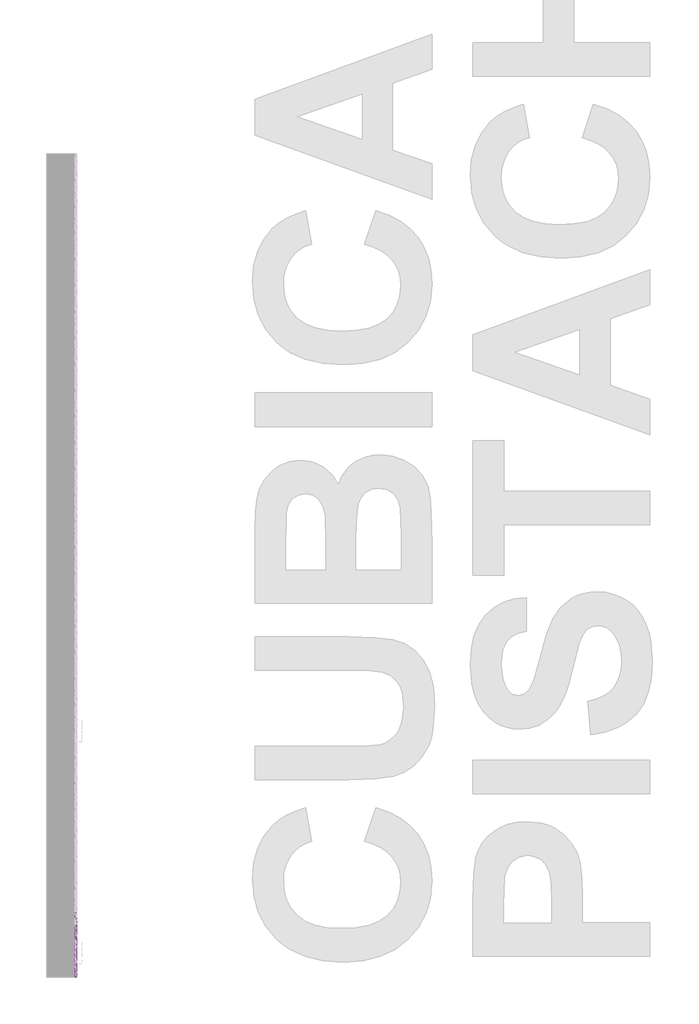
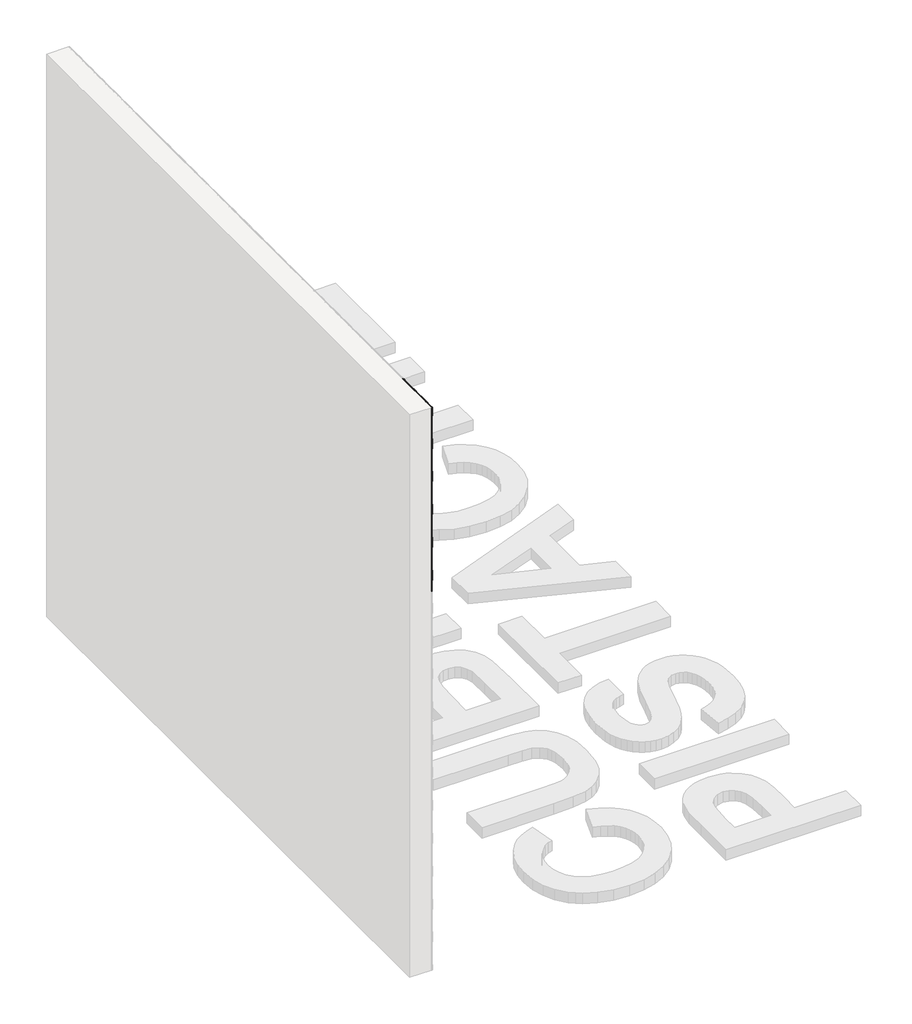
# One storey, part 75 of 121: 143 proxies.
"""IFC4 building model written with IfcOpenShell, lengths in millimetres."""

from ifc_helpers import new_model, si_unit, origin, place, context, project, spatial, transform, mapped, element, save
from components import generic_models_b2b2c5c1, generic_models_9bf73f6f, generic_models_5d175859, generic_models_45888c4d, generic_models_95f85f1d, generic_models_65d4feed, generic_models_3c364290, generic_models_eac52c18, generic_models_b652511d

model = new_model("IFC4")

# Units and contexts
model_context = context("Model", 3, world=origin())
ifc_project = project(units=[si_unit("LENGTHUNIT", "METRE", prefix="MILLI")], contexts=[model_context])

# Site, building, storey
site = spatial("IfcSite", under=ifc_project)
building = spatial("IfcBuilding", under=site)
storey = spatial("IfcBuildingStorey", under=building, Name="PORTOBELLO - SHOWROOM", Elevation=0.0)

# Proxies
placement = place(None, origin())
generic_models_shape = generic_models_b2b2c5c1(model_context)
element("IfcBuildingElementProxy", 1, Name="PBSHOP - CUBICA PISTACHE 4,8X8,3 : CUBICA PISTACHE - POSIÇÃO 01", ObjectType="PBSHOP - CUBICA PISTACHE 4,8X8,3 : CUBICA PISTACHE - POSIÇÃO 01", at=placement, inside=storey, context=model_context, shape_type="MappedRepresentation", body=[
    mapped(generic_models_shape, transform((150369.5341846, 13069.0655533, 39.4221668), x_axis=(0.0, 1.0, 0.0), y_axis=(0.0, 0.0, 1.0), z_axis=(1.0, 0.0, 0.0))),
])
element("IfcBuildingElementProxy", 2, Name="PBSHOP - CUBICA PISTACHE 4,8X8,3 : CUBICA PISTACHE - POSIÇÃO 01", ObjectType="PBSHOP - CUBICA PISTACHE 4,8X8,3 : CUBICA PISTACHE - POSIÇÃO 01", at=placement, inside=storey, context=model_context, shape_type="MappedRepresentation", body=[
    mapped(generic_models_shape, transform((150369.5341846, 13159.9048225, 39.4221668), x_axis=(0.0, 1.0, 0.0), y_axis=(0.0, 0.0, 1.0), z_axis=(1.0, 0.0, 0.0))),
])
element("IfcBuildingElementProxy", 3, Name="PBSHOP - CUBICA PISTACHE 4,8X8,3 : CUBICA PISTACHE - POSIÇÃO 01", ObjectType="PBSHOP - CUBICA PISTACHE 4,8X8,3 : CUBICA PISTACHE - POSIÇÃO 01", at=placement, inside=storey, context=model_context, shape_type="MappedRepresentation", body=[
    mapped(generic_models_shape, transform((150369.5341846, 13250.7440918, 39.4221668), x_axis=(0.0, 1.0, 0.0), y_axis=(0.0, 0.0, 1.0), z_axis=(1.0, 0.0, 0.0))),
])
element("IfcBuildingElementProxy", 4, Name="PBSHOP - CUBICA PISTACHE 4,8X8,3 : CUBICA PISTACHE - POSIÇÃO 01", ObjectType="PBSHOP - CUBICA PISTACHE 4,8X8,3 : CUBICA PISTACHE - POSIÇÃO 01", at=placement, inside=storey, context=model_context, shape_type="MappedRepresentation", body=[
    mapped(generic_models_shape, transform((150369.5341846, 13341.583361, 39.4221668), x_axis=(0.0, 1.0, 0.0), y_axis=(0.0, 0.0, 1.0), z_axis=(1.0, 0.0, 0.0))),
])
element("IfcBuildingElementProxy", 5, Name="PBSHOP - CUBICA PISTACHE 4,8X8,3 : CUBICA PISTACHE - POSIÇÃO 01", ObjectType="PBSHOP - CUBICA PISTACHE 4,8X8,3 : CUBICA PISTACHE - POSIÇÃO 01", at=placement, inside=storey, context=model_context, shape_type="MappedRepresentation", body=[
    mapped(generic_models_shape, transform((150369.5341846, 13432.4226303, 39.4221668), x_axis=(0.0, 1.0, 0.0), y_axis=(0.0, 0.0, 1.0), z_axis=(1.0, 0.0, 0.0))),
])
element("IfcBuildingElementProxy", 6, Name="PBSHOP - CUBICA PISTACHE 4,8X8,3 : CUBICA PISTACHE - POSIÇÃO 01", ObjectType="PBSHOP - CUBICA PISTACHE 4,8X8,3 : CUBICA PISTACHE - POSIÇÃO 01", at=placement, inside=storey, context=model_context, shape_type="MappedRepresentation", body=[
    mapped(generic_models_shape, transform((150369.5341846, 13523.2618995, 39.4221668), x_axis=(0.0, 1.0, 0.0), y_axis=(0.0, 0.0, 1.0), z_axis=(1.0, 0.0, 0.0))),
])
element("IfcBuildingElementProxy", 7, Name="PBSHOP - CUBICA PISTACHE 4,8X8,3 : CUBICA PISTACHE - POSIÇÃO 01", ObjectType="PBSHOP - CUBICA PISTACHE 4,8X8,3 : CUBICA PISTACHE - POSIÇÃO 01", at=placement, inside=storey, context=model_context, shape_type="MappedRepresentation", body=[
    mapped(generic_models_shape, transform((150369.5341846, 13614.1011688, 39.4221668), x_axis=(0.0, 1.0, 0.0), y_axis=(0.0, 0.0, 1.0), z_axis=(1.0, 0.0, 0.0))),
])
element("IfcBuildingElementProxy", 8, Name="PBSHOP - CUBICA PISTACHE 4,8X8,3 : CUBICA PISTACHE - POSIÇÃO 01", ObjectType="PBSHOP - CUBICA PISTACHE 4,8X8,3 : CUBICA PISTACHE - POSIÇÃO 01", at=placement, inside=storey, context=model_context, shape_type="MappedRepresentation", body=[
    mapped(generic_models_shape, transform((150369.5341846, 13704.940438, 39.4221668), x_axis=(0.0, 1.0, 0.0), y_axis=(0.0, 0.0, 1.0), z_axis=(1.0, 0.0, 0.0))),
])
element("IfcBuildingElementProxy", 9, Name="PBSHOP - CUBICA PISTACHE 4,8X8,3 : CUBICA PISTACHE - POSIÇÃO 01", ObjectType="PBSHOP - CUBICA PISTACHE 4,8X8,3 : CUBICA PISTACHE - POSIÇÃO 01", at=placement, inside=storey, context=model_context, shape_type="MappedRepresentation", body=[
    mapped(generic_models_shape, transform((150369.5341846, 13795.7797073, 39.4221668), x_axis=(0.0, 1.0, 0.0), y_axis=(0.0, 0.0, 1.0), z_axis=(1.0, 0.0, 0.0))),
])
element("IfcBuildingElementProxy", 10, Name="PBSHOP - CUBICA PISTACHE 4,8X8,3 : CUBICA PISTACHE - POSIÇÃO 01", ObjectType="PBSHOP - CUBICA PISTACHE 4,8X8,3 : CUBICA PISTACHE - POSIÇÃO 01", at=placement, inside=storey, context=model_context, shape_type="MappedRepresentation", body=[
    mapped(generic_models_shape, transform((150369.5341846, 13886.6189765, 39.4221668), x_axis=(0.0, 1.0, 0.0), y_axis=(0.0, 0.0, 1.0), z_axis=(1.0, 0.0, 0.0))),
])
element("IfcBuildingElementProxy", 11, Name="PBSHOP - CUBICA PISTACHE 4,8X8,3 : CUBICA PISTACHE - POSIÇÃO 01", ObjectType="PBSHOP - CUBICA PISTACHE 4,8X8,3 : CUBICA PISTACHE - POSIÇÃO 01", at=placement, inside=storey, context=model_context, shape_type="MappedRepresentation", body=[
    mapped(generic_models_shape, transform((150369.5341846, 13977.4582457, 39.4221668), x_axis=(0.0, 1.0, 0.0), y_axis=(0.0, 0.0, 1.0), z_axis=(1.0, 0.0, 0.0))),
])
element("IfcBuildingElementProxy", 12, Name="PBSHOP - CUBICA PISTACHE 4,8X8,3 : CUBICA PISTACHE - POSIÇÃO 01", ObjectType="PBSHOP - CUBICA PISTACHE 4,8X8,3 : CUBICA PISTACHE - POSIÇÃO 01", at=placement, inside=storey, context=model_context, shape_type="MappedRepresentation", body=[
    mapped(generic_models_shape, transform((150369.5341846, 13023.6459187, 118.3568052), x_axis=(0.0, 1.0, 0.0), y_axis=(0.0, 0.0, 1.0), z_axis=(1.0, 0.0, 0.0))),
])
element("IfcBuildingElementProxy", 13, Name="PBSHOP - CUBICA PISTACHE 4,8X8,3 : CUBICA PISTACHE - POSIÇÃO 01", ObjectType="PBSHOP - CUBICA PISTACHE 4,8X8,3 : CUBICA PISTACHE - POSIÇÃO 01", at=placement, inside=storey, context=model_context, shape_type="MappedRepresentation", body=[
    mapped(generic_models_shape, transform((150369.5341846, 13114.4851879, 118.3568052), x_axis=(0.0, 1.0, 0.0), y_axis=(0.0, 0.0, 1.0), z_axis=(1.0, 0.0, 0.0))),
])
element("IfcBuildingElementProxy", 14, Name="PBSHOP - CUBICA PISTACHE 4,8X8,3 : CUBICA PISTACHE - POSIÇÃO 01", ObjectType="PBSHOP - CUBICA PISTACHE 4,8X8,3 : CUBICA PISTACHE - POSIÇÃO 01", at=placement, inside=storey, context=model_context, shape_type="MappedRepresentation", body=[
    mapped(generic_models_shape, transform((150369.5341846, 13205.3244572, 118.3568052), x_axis=(0.0, 1.0, 0.0), y_axis=(0.0, 0.0, 1.0), z_axis=(1.0, 0.0, 0.0))),
])
element("IfcBuildingElementProxy", 15, Name="PBSHOP - CUBICA PISTACHE 4,8X8,3 : CUBICA PISTACHE - POSIÇÃO 01", ObjectType="PBSHOP - CUBICA PISTACHE 4,8X8,3 : CUBICA PISTACHE - POSIÇÃO 01", at=placement, inside=storey, context=model_context, shape_type="MappedRepresentation", body=[
    mapped(generic_models_shape, transform((150369.5341846, 13296.1637264, 118.3568052), x_axis=(0.0, 1.0, 0.0), y_axis=(0.0, 0.0, 1.0), z_axis=(1.0, 0.0, 0.0))),
])
element("IfcBuildingElementProxy", 16, Name="PBSHOP - CUBICA PISTACHE 4,8X8,3 : CUBICA PISTACHE - POSIÇÃO 01", ObjectType="PBSHOP - CUBICA PISTACHE 4,8X8,3 : CUBICA PISTACHE - POSIÇÃO 01", at=placement, inside=storey, context=model_context, shape_type="MappedRepresentation", body=[
    mapped(generic_models_shape, transform((150369.5341846, 13387.0029957, 118.3568052), x_axis=(0.0, 1.0, 0.0), y_axis=(0.0, 0.0, 1.0), z_axis=(1.0, 0.0, 0.0))),
])
element("IfcBuildingElementProxy", 17, Name="PBSHOP - CUBICA PISTACHE 4,8X8,3 : CUBICA PISTACHE - POSIÇÃO 01", ObjectType="PBSHOP - CUBICA PISTACHE 4,8X8,3 : CUBICA PISTACHE - POSIÇÃO 01", at=placement, inside=storey, context=model_context, shape_type="MappedRepresentation", body=[
    mapped(generic_models_shape, transform((150369.5341846, 13477.8422649, 118.3568052), x_axis=(0.0, 1.0, 0.0), y_axis=(0.0, 0.0, 1.0), z_axis=(1.0, 0.0, 0.0))),
])
element("IfcBuildingElementProxy", 18, Name="PBSHOP - CUBICA PISTACHE 4,8X8,3 : CUBICA PISTACHE - POSIÇÃO 01", ObjectType="PBSHOP - CUBICA PISTACHE 4,8X8,3 : CUBICA PISTACHE - POSIÇÃO 01", at=placement, inside=storey, context=model_context, shape_type="MappedRepresentation", body=[
    mapped(generic_models_shape, transform((150369.5341846, 13568.6815341, 118.3568052), x_axis=(0.0, 1.0, 0.0), y_axis=(0.0, 0.0, 1.0), z_axis=(1.0, 0.0, 0.0))),
])
element("IfcBuildingElementProxy", 19, Name="PBSHOP - CUBICA PISTACHE 4,8X8,3 : CUBICA PISTACHE - POSIÇÃO 01", ObjectType="PBSHOP - CUBICA PISTACHE 4,8X8,3 : CUBICA PISTACHE - POSIÇÃO 01", at=placement, inside=storey, context=model_context, shape_type="MappedRepresentation", body=[
    mapped(generic_models_shape, transform((150369.5341846, 13659.5208034, 118.3568052), x_axis=(0.0, 1.0, 0.0), y_axis=(0.0, 0.0, 1.0), z_axis=(1.0, 0.0, 0.0))),
])
element("IfcBuildingElementProxy", 20, Name="PBSHOP - CUBICA PISTACHE 4,8X8,3 : CUBICA PISTACHE - POSIÇÃO 01", ObjectType="PBSHOP - CUBICA PISTACHE 4,8X8,3 : CUBICA PISTACHE - POSIÇÃO 01", at=placement, inside=storey, context=model_context, shape_type="MappedRepresentation", body=[
    mapped(generic_models_shape, transform((150369.5341846, 13750.3600726, 118.3568052), x_axis=(0.0, 1.0, 0.0), y_axis=(0.0, 0.0, 1.0), z_axis=(1.0, 0.0, 0.0))),
])
element("IfcBuildingElementProxy", 21, Name="PBSHOP - CUBICA PISTACHE 4,8X8,3 : CUBICA PISTACHE - POSIÇÃO 01", ObjectType="PBSHOP - CUBICA PISTACHE 4,8X8,3 : CUBICA PISTACHE - POSIÇÃO 01", at=placement, inside=storey, context=model_context, shape_type="MappedRepresentation", body=[
    mapped(generic_models_shape, transform((150369.5341846, 13841.1993419, 118.3568052), x_axis=(0.0, 1.0, 0.0), y_axis=(0.0, 0.0, 1.0), z_axis=(1.0, 0.0, 0.0))),
])
element("IfcBuildingElementProxy", 22, Name="PBSHOP - CUBICA PISTACHE 4,8X8,3 : CUBICA PISTACHE - POSIÇÃO 01", ObjectType="PBSHOP - CUBICA PISTACHE 4,8X8,3 : CUBICA PISTACHE - POSIÇÃO 01", at=placement, inside=storey, context=model_context, shape_type="MappedRepresentation", body=[
    mapped(generic_models_shape, transform((150369.5341846, 12841.9673802, 1854.9188494), x_axis=(0.0, 1.0, 0.0), y_axis=(0.0, 0.0, 1.0), z_axis=(1.0, 0.0, 0.0))),
])
element("IfcBuildingElementProxy", 23, Name="PBSHOP - CUBICA PISTACHE 4,8X8,3 : CUBICA PISTACHE - POSIÇÃO 01", ObjectType="PBSHOP - CUBICA PISTACHE 4,8X8,3 : CUBICA PISTACHE - POSIÇÃO 01", at=placement, inside=storey, context=model_context, shape_type="MappedRepresentation", body=[
    mapped(generic_models_shape, transform((150369.5341846, 12932.8066494, 1854.9188494), x_axis=(0.0, 1.0, 0.0), y_axis=(0.0, 0.0, 1.0), z_axis=(1.0, 0.0, 0.0))),
])
element("IfcBuildingElementProxy", 24, Name="PBSHOP - CUBICA PISTACHE 4,8X8,3 : CUBICA PISTACHE - POSIÇÃO 01", ObjectType="PBSHOP - CUBICA PISTACHE 4,8X8,3 : CUBICA PISTACHE - POSIÇÃO 01", at=placement, inside=storey, context=model_context, shape_type="MappedRepresentation", body=[
    mapped(generic_models_shape, transform((150369.5341846, 12796.5477456, 1933.8534878), x_axis=(0.0, 1.0, 0.0), y_axis=(0.0, 0.0, 1.0), z_axis=(1.0, 0.0, 0.0))),
])
element("IfcBuildingElementProxy", 25, Name="PBSHOP - CUBICA PISTACHE 4,8X8,3 : CUBICA PISTACHE - POSIÇÃO 01", ObjectType="PBSHOP - CUBICA PISTACHE 4,8X8,3 : CUBICA PISTACHE - POSIÇÃO 01", at=placement, inside=storey, context=model_context, shape_type="MappedRepresentation", body=[
    mapped(generic_models_shape, transform((150369.5341846, 12887.3870148, 1933.8534878), x_axis=(0.0, 1.0, 0.0), y_axis=(0.0, 0.0, 1.0), z_axis=(1.0, 0.0, 0.0))),
])
element("IfcBuildingElementProxy", 26, Name="PBSHOP - CUBICA PISTACHE 4,8X8,3 : CUBICA PISTACHE - POSIÇÃO 01", ObjectType="PBSHOP - CUBICA PISTACHE 4,8X8,3 : CUBICA PISTACHE - POSIÇÃO 01", at=placement, inside=storey, context=model_context, shape_type="MappedRepresentation", body=[
    mapped(generic_models_shape, transform((150369.5341846, 12978.2262841, 1933.8534878), x_axis=(0.0, 1.0, 0.0), y_axis=(0.0, 0.0, 1.0), z_axis=(1.0, 0.0, 0.0))),
])
element("IfcBuildingElementProxy", 27, Name="PBSHOP - CUBICA PISTACHE 4,8X8,3 : CUBICA PISTACHE - POSIÇÃO 01", ObjectType="PBSHOP - CUBICA PISTACHE 4,8X8,3 : CUBICA PISTACHE - POSIÇÃO 01", at=placement, inside=storey, context=model_context, shape_type="MappedRepresentation", body=[
    mapped(generic_models_shape, transform((150369.5341846, 12841.9673802, 2012.7881262), x_axis=(0.0, 1.0, 0.0), y_axis=(0.0, 0.0, 1.0), z_axis=(1.0, 0.0, 0.0))),
])
element("IfcBuildingElementProxy", 28, Name="PBSHOP - CUBICA PISTACHE 4,8X8,3 : CUBICA PISTACHE - POSIÇÃO 01", ObjectType="PBSHOP - CUBICA PISTACHE 4,8X8,3 : CUBICA PISTACHE - POSIÇÃO 01", at=placement, inside=storey, context=model_context, shape_type="MappedRepresentation", body=[
    mapped(generic_models_shape, transform((150369.5341846, 12932.8066494, 2012.7881262), x_axis=(0.0, 1.0, 0.0), y_axis=(0.0, 0.0, 1.0), z_axis=(1.0, 0.0, 0.0))),
])
element("IfcBuildingElementProxy", 29, Name="PBSHOP - CUBICA PISTACHE 4,8X8,3 : CUBICA PISTACHE - POSIÇÃO 01", ObjectType="PBSHOP - CUBICA PISTACHE 4,8X8,3 : CUBICA PISTACHE - POSIÇÃO 01", at=placement, inside=storey, context=model_context, shape_type="MappedRepresentation", body=[
    mapped(generic_models_shape, transform((150369.5341846, 12796.5477456, 2091.7227645), x_axis=(0.0, 1.0, 0.0), y_axis=(0.0, 0.0, 1.0), z_axis=(1.0, 0.0, 0.0))),
])
element("IfcBuildingElementProxy", 30, Name="PBSHOP - CUBICA PISTACHE 4,8X8,3 : CUBICA PISTACHE - POSIÇÃO 01", ObjectType="PBSHOP - CUBICA PISTACHE 4,8X8,3 : CUBICA PISTACHE - POSIÇÃO 01", at=placement, inside=storey, context=model_context, shape_type="MappedRepresentation", body=[
    mapped(generic_models_shape, transform((150369.5341846, 12887.3870148, 2091.7227645), x_axis=(0.0, 1.0, 0.0), y_axis=(0.0, 0.0, 1.0), z_axis=(1.0, 0.0, 0.0))),
])
element("IfcBuildingElementProxy", 31, Name="PBSHOP - CUBICA PISTACHE 4,8X8,3 : CUBICA PISTACHE - POSIÇÃO 01", ObjectType="PBSHOP - CUBICA PISTACHE 4,8X8,3 : CUBICA PISTACHE - POSIÇÃO 01", at=placement, inside=storey, context=model_context, shape_type="MappedRepresentation", body=[
    mapped(generic_models_shape, transform((150369.5341846, 12978.2262841, 2091.7227645), x_axis=(0.0, 1.0, 0.0), y_axis=(0.0, 0.0, 1.0), z_axis=(1.0, 0.0, 0.0))),
])
element("IfcBuildingElementProxy", 32, Name="PBSHOP - CUBICA PISTACHE 4,8X8,3 : CUBICA PISTACHE - POSIÇÃO 01", ObjectType="PBSHOP - CUBICA PISTACHE 4,8X8,3 : CUBICA PISTACHE - POSIÇÃO 01", at=placement, inside=storey, context=model_context, shape_type="MappedRepresentation", body=[
    mapped(generic_models_shape, transform((150369.5341846, 12841.9673802, 2170.6574029), x_axis=(0.0, 1.0, 0.0), y_axis=(0.0, 0.0, 1.0), z_axis=(1.0, 0.0, 0.0))),
])
element("IfcBuildingElementProxy", 33, Name="PBSHOP - CUBICA PISTACHE 4,8X8,3 : CUBICA PISTACHE - POSIÇÃO 01", ObjectType="PBSHOP - CUBICA PISTACHE 4,8X8,3 : CUBICA PISTACHE - POSIÇÃO 01", at=placement, inside=storey, context=model_context, shape_type="MappedRepresentation", body=[
    mapped(generic_models_shape, transform((150369.5341846, 12932.8066494, 2170.6574029), x_axis=(0.0, 1.0, 0.0), y_axis=(0.0, 0.0, 1.0), z_axis=(1.0, 0.0, 0.0))),
])
element("IfcBuildingElementProxy", 34, Name="PBSHOP - CUBICA PISTACHE 4,8X8,3 : CUBICA PISTACHE - POSIÇÃO 01", ObjectType="PBSHOP - CUBICA PISTACHE 4,8X8,3 : CUBICA PISTACHE - POSIÇÃO 01", at=placement, inside=storey, context=model_context, shape_type="MappedRepresentation", body=[
    mapped(generic_models_shape, transform((150369.5341846, 12796.5477456, 2249.5920413), x_axis=(0.0, 1.0, 0.0), y_axis=(0.0, 0.0, 1.0), z_axis=(1.0, 0.0, 0.0))),
])
element("IfcBuildingElementProxy", 35, Name="PBSHOP - CUBICA PISTACHE 4,8X8,3 : CUBICA PISTACHE - POSIÇÃO 01", ObjectType="PBSHOP - CUBICA PISTACHE 4,8X8,3 : CUBICA PISTACHE - POSIÇÃO 01", at=placement, inside=storey, context=model_context, shape_type="MappedRepresentation", body=[
    mapped(generic_models_shape, transform((150369.5341846, 12887.3870148, 2249.5920413), x_axis=(0.0, 1.0, 0.0), y_axis=(0.0, 0.0, 1.0), z_axis=(1.0, 0.0, 0.0))),
])
element("IfcBuildingElementProxy", 36, Name="PBSHOP - CUBICA PISTACHE 4,8X8,3 : CUBICA PISTACHE - POSIÇÃO 01", ObjectType="PBSHOP - CUBICA PISTACHE 4,8X8,3 : CUBICA PISTACHE - POSIÇÃO 01", at=placement, inside=storey, context=model_context, shape_type="MappedRepresentation", body=[
    mapped(generic_models_shape, transform((150369.5341846, 12978.2262841, 2249.5920413), x_axis=(0.0, 1.0, 0.0), y_axis=(0.0, 0.0, 1.0), z_axis=(1.0, 0.0, 0.0))),
])
element("IfcBuildingElementProxy", 37, Name="PBSHOP - CUBICA PISTACHE 4,8X8,3 : CUBICA PISTACHE - POSIÇÃO 01", ObjectType="PBSHOP - CUBICA PISTACHE 4,8X8,3 : CUBICA PISTACHE - POSIÇÃO 01", at=placement, inside=storey, context=model_context, shape_type="MappedRepresentation", body=[
    mapped(generic_models_shape, transform((150369.5341846, 12841.9673802, 2328.5266797), x_axis=(0.0, 1.0, 0.0), y_axis=(0.0, 0.0, 1.0), z_axis=(1.0, 0.0, 0.0))),
])
element("IfcBuildingElementProxy", 38, Name="PBSHOP - CUBICA PISTACHE 4,8X8,3 : CUBICA PISTACHE - POSIÇÃO 01", ObjectType="PBSHOP - CUBICA PISTACHE 4,8X8,3 : CUBICA PISTACHE - POSIÇÃO 01", at=placement, inside=storey, context=model_context, shape_type="MappedRepresentation", body=[
    mapped(generic_models_shape, transform((150369.5341846, 12932.8066494, 2328.5266797), x_axis=(0.0, 1.0, 0.0), y_axis=(0.0, 0.0, 1.0), z_axis=(1.0, 0.0, 0.0))),
])
element("IfcBuildingElementProxy", 39, Name="PBSHOP - CUBICA PISTACHE 4,8X8,3 : CUBICA PISTACHE - POSIÇÃO 01", ObjectType="PBSHOP - CUBICA PISTACHE 4,8X8,3 : CUBICA PISTACHE - POSIÇÃO 01", at=placement, inside=storey, context=model_context, shape_type="MappedRepresentation", body=[
    mapped(generic_models_shape, transform((150369.5341846, 12796.5477456, 2407.461318), x_axis=(0.0, 1.0, 0.0), y_axis=(0.0, 0.0, 1.0), z_axis=(1.0, 0.0, 0.0))),
])
element("IfcBuildingElementProxy", 40, Name="PBSHOP - CUBICA PISTACHE 4,8X8,3 : CUBICA PISTACHE - POSIÇÃO 01", ObjectType="PBSHOP - CUBICA PISTACHE 4,8X8,3 : CUBICA PISTACHE - POSIÇÃO 01", at=placement, inside=storey, context=model_context, shape_type="MappedRepresentation", body=[
    mapped(generic_models_shape, transform((150369.5341846, 12887.3870148, 2407.461318), x_axis=(0.0, 1.0, 0.0), y_axis=(0.0, 0.0, 1.0), z_axis=(1.0, 0.0, 0.0))),
])
element("IfcBuildingElementProxy", 41, Name="PBSHOP - CUBICA PISTACHE 4,8X8,3 : CUBICA PISTACHE - POSIÇÃO 01", ObjectType="PBSHOP - CUBICA PISTACHE 4,8X8,3 : CUBICA PISTACHE - POSIÇÃO 01", at=placement, inside=storey, context=model_context, shape_type="MappedRepresentation", body=[
    mapped(generic_models_shape, transform((150369.5341846, 12978.2262841, 2407.461318), x_axis=(0.0, 1.0, 0.0), y_axis=(0.0, 0.0, 1.0), z_axis=(1.0, 0.0, 0.0))),
])
element("IfcBuildingElementProxy", 42, Name="PBSHOP - CUBICA PISTACHE 4,8X8,3 : CUBICA PISTACHE - POSIÇÃO 01", ObjectType="PBSHOP - CUBICA PISTACHE 4,8X8,3 : CUBICA PISTACHE - POSIÇÃO 01", at=placement, inside=storey, context=model_context, shape_type="MappedRepresentation", body=[
    mapped(generic_models_shape, transform((150369.5341846, 12841.9673802, 2486.3959564), x_axis=(0.0, 1.0, 0.0), y_axis=(0.0, 0.0, 1.0), z_axis=(1.0, 0.0, 0.0))),
])
element("IfcBuildingElementProxy", 43, Name="PBSHOP - CUBICA PISTACHE 4,8X8,3 : CUBICA PISTACHE - POSIÇÃO 01", ObjectType="PBSHOP - CUBICA PISTACHE 4,8X8,3 : CUBICA PISTACHE - POSIÇÃO 01", at=placement, inside=storey, context=model_context, shape_type="MappedRepresentation", body=[
    mapped(generic_models_shape, transform((150369.5341846, 12932.8066494, 2486.3959564), x_axis=(0.0, 1.0, 0.0), y_axis=(0.0, 0.0, 1.0), z_axis=(1.0, 0.0, 0.0))),
])
element("IfcBuildingElementProxy", 44, Name="PBSHOP - CUBICA PISTACHE 4,8X8,3 : CUBICA PISTACHE - POSIÇÃO 01", ObjectType="PBSHOP - CUBICA PISTACHE 4,8X8,3 : CUBICA PISTACHE - POSIÇÃO 01", at=placement, inside=storey, context=model_context, shape_type="MappedRepresentation", body=[
    mapped(generic_models_shape, transform((150369.5341846, 12796.5477456, 2565.3305948), x_axis=(0.0, 1.0, 0.0), y_axis=(0.0, 0.0, 1.0), z_axis=(1.0, 0.0, 0.0))),
])
element("IfcBuildingElementProxy", 45, Name="PBSHOP - CUBICA PISTACHE 4,8X8,3 : CUBICA PISTACHE - POSIÇÃO 01", ObjectType="PBSHOP - CUBICA PISTACHE 4,8X8,3 : CUBICA PISTACHE - POSIÇÃO 01", at=placement, inside=storey, context=model_context, shape_type="MappedRepresentation", body=[
    mapped(generic_models_shape, transform((150369.5341846, 12887.3870148, 2565.3305948), x_axis=(0.0, 1.0, 0.0), y_axis=(0.0, 0.0, 1.0), z_axis=(1.0, 0.0, 0.0))),
])
element("IfcBuildingElementProxy", 46, Name="PBSHOP - CUBICA PISTACHE 4,8X8,3 : CUBICA PISTACHE - POSIÇÃO 01", ObjectType="PBSHOP - CUBICA PISTACHE 4,8X8,3 : CUBICA PISTACHE - POSIÇÃO 01", at=placement, inside=storey, context=model_context, shape_type="MappedRepresentation", body=[
    mapped(generic_models_shape, transform((150369.5341846, 12978.2262841, 2565.3305948), x_axis=(0.0, 1.0, 0.0), y_axis=(0.0, 0.0, 1.0), z_axis=(1.0, 0.0, 0.0))),
])
element("IfcBuildingElementProxy", 47, Name="PBSHOP - CUBICA PISTACHE 4,8X8,3 : CUBICA PISTACHE - POSIÇÃO 01", ObjectType="PBSHOP - CUBICA PISTACHE 4,8X8,3 : CUBICA PISTACHE - POSIÇÃO 01", at=placement, inside=storey, context=model_context, shape_type="MappedRepresentation", body=[
    mapped(generic_models_shape, transform((150369.5341846, 12841.9673802, 2644.2652332), x_axis=(0.0, 1.0, 0.0), y_axis=(0.0, 0.0, 1.0), z_axis=(1.0, 0.0, 0.0))),
])
element("IfcBuildingElementProxy", 48, Name="PBSHOP - CUBICA PISTACHE 4,8X8,3 : CUBICA PISTACHE - POSIÇÃO 01", ObjectType="PBSHOP - CUBICA PISTACHE 4,8X8,3 : CUBICA PISTACHE - POSIÇÃO 01", at=placement, inside=storey, context=model_context, shape_type="MappedRepresentation", body=[
    mapped(generic_models_shape, transform((150369.5341846, 12932.8066494, 2644.2652332), x_axis=(0.0, 1.0, 0.0), y_axis=(0.0, 0.0, 1.0), z_axis=(1.0, 0.0, 0.0))),
])
generic_models_2_shape = generic_models_9bf73f6f(model_context)
element("IfcBuildingElementProxy", 49, Name="PBSHOP - CUBICA PISTACHE 4,8X8,3 : CUBICA PISTACHE - POSIÇÃO 03", ObjectType="PBSHOP - CUBICA PISTACHE 4,8X8,3 : CUBICA PISTACHE - POSIÇÃO 03", at=placement, inside=storey, context=model_context, shape_type="MappedRepresentation", body=[
    mapped(generic_models_2_shape, transform((150369.5341846, 12955.5186259, 1736.4756814), x_axis=(0.0, 1.0, 0.0), y_axis=(0.0, 0.0, 1.0), z_axis=(1.0, 0.0, 0.0))),
])
element("IfcBuildingElementProxy", 50, Name="PBSHOP - CUBICA PISTACHE 4,8X8,3 : CUBICA PISTACHE - POSIÇÃO 03", ObjectType="PBSHOP - CUBICA PISTACHE 4,8X8,3 : CUBICA PISTACHE - POSIÇÃO 03", at=placement, inside=storey, context=model_context, shape_type="MappedRepresentation", body=[
    mapped(generic_models_2_shape, transform((150369.5341846, 12819.259722, 1815.4103198), x_axis=(0.0, 1.0, 0.0), y_axis=(0.0, 0.0, 1.0), z_axis=(1.0, 0.0, 0.0))),
])
element("IfcBuildingElementProxy", 51, Name="PBSHOP - CUBICA PISTACHE 4,8X8,3 : CUBICA PISTACHE - POSIÇÃO 03", ObjectType="PBSHOP - CUBICA PISTACHE 4,8X8,3 : CUBICA PISTACHE - POSIÇÃO 03", at=placement, inside=storey, context=model_context, shape_type="MappedRepresentation", body=[
    mapped(generic_models_2_shape, transform((150369.5341846, 12910.0989913, 1815.4103198), x_axis=(0.0, 1.0, 0.0), y_axis=(0.0, 0.0, 1.0), z_axis=(1.0, 0.0, 0.0))),
])
element("IfcBuildingElementProxy", 52, Name="PBSHOP - CUBICA PISTACHE 4,8X8,3 : CUBICA PISTACHE - POSIÇÃO 03", ObjectType="PBSHOP - CUBICA PISTACHE 4,8X8,3 : CUBICA PISTACHE - POSIÇÃO 03", at=placement, inside=storey, context=model_context, shape_type="MappedRepresentation", body=[
    mapped(generic_models_2_shape, transform((150369.5341846, 12864.6793567, 1894.3449582), x_axis=(0.0, 1.0, 0.0), y_axis=(0.0, 0.0, 1.0), z_axis=(1.0, 0.0, 0.0))),
])
element("IfcBuildingElementProxy", 53, Name="PBSHOP - CUBICA PISTACHE 4,8X8,3 : CUBICA PISTACHE - POSIÇÃO 03", ObjectType="PBSHOP - CUBICA PISTACHE 4,8X8,3 : CUBICA PISTACHE - POSIÇÃO 03", at=placement, inside=storey, context=model_context, shape_type="MappedRepresentation", body=[
    mapped(generic_models_2_shape, transform((150369.5341846, 12955.5186259, 1894.3449582), x_axis=(0.0, 1.0, 0.0), y_axis=(0.0, 0.0, 1.0), z_axis=(1.0, 0.0, 0.0))),
])
element("IfcBuildingElementProxy", 54, Name="PBSHOP - CUBICA PISTACHE 4,8X8,3 : CUBICA PISTACHE - POSIÇÃO 03", ObjectType="PBSHOP - CUBICA PISTACHE 4,8X8,3 : CUBICA PISTACHE - POSIÇÃO 03", at=placement, inside=storey, context=model_context, shape_type="MappedRepresentation", body=[
    mapped(generic_models_2_shape, transform((150369.5341846, 12819.259722, 1973.2795966), x_axis=(0.0, 1.0, 0.0), y_axis=(0.0, 0.0, 1.0), z_axis=(1.0, 0.0, 0.0))),
])
element("IfcBuildingElementProxy", 55, Name="PBSHOP - CUBICA PISTACHE 4,8X8,3 : CUBICA PISTACHE - POSIÇÃO 03", ObjectType="PBSHOP - CUBICA PISTACHE 4,8X8,3 : CUBICA PISTACHE - POSIÇÃO 03", at=placement, inside=storey, context=model_context, shape_type="MappedRepresentation", body=[
    mapped(generic_models_2_shape, transform((150369.5341846, 12910.0989913, 1973.2795966), x_axis=(0.0, 1.0, 0.0), y_axis=(0.0, 0.0, 1.0), z_axis=(1.0, 0.0, 0.0))),
])
element("IfcBuildingElementProxy", 56, Name="PBSHOP - CUBICA PISTACHE 4,8X8,3 : CUBICA PISTACHE - POSIÇÃO 03", ObjectType="PBSHOP - CUBICA PISTACHE 4,8X8,3 : CUBICA PISTACHE - POSIÇÃO 03", at=placement, inside=storey, context=model_context, shape_type="MappedRepresentation", body=[
    mapped(generic_models_2_shape, transform((150369.5341846, 12864.6793567, 2052.2142349), x_axis=(0.0, 1.0, 0.0), y_axis=(0.0, 0.0, 1.0), z_axis=(1.0, 0.0, 0.0))),
])
element("IfcBuildingElementProxy", 57, Name="PBSHOP - CUBICA PISTACHE 4,8X8,3 : CUBICA PISTACHE - POSIÇÃO 03", ObjectType="PBSHOP - CUBICA PISTACHE 4,8X8,3 : CUBICA PISTACHE - POSIÇÃO 03", at=placement, inside=storey, context=model_context, shape_type="MappedRepresentation", body=[
    mapped(generic_models_2_shape, transform((150369.5341846, 12955.5186259, 2052.2142349), x_axis=(0.0, 1.0, 0.0), y_axis=(0.0, 0.0, 1.0), z_axis=(1.0, 0.0, 0.0))),
])
element("IfcBuildingElementProxy", 58, Name="PBSHOP - CUBICA PISTACHE 4,8X8,3 : CUBICA PISTACHE - POSIÇÃO 03", ObjectType="PBSHOP - CUBICA PISTACHE 4,8X8,3 : CUBICA PISTACHE - POSIÇÃO 03", at=placement, inside=storey, context=model_context, shape_type="MappedRepresentation", body=[
    mapped(generic_models_2_shape, transform((150369.5341846, 12819.259722, 2131.1488733), x_axis=(0.0, 1.0, 0.0), y_axis=(0.0, 0.0, 1.0), z_axis=(1.0, 0.0, 0.0))),
])
element("IfcBuildingElementProxy", 59, Name="PBSHOP - CUBICA PISTACHE 4,8X8,3 : CUBICA PISTACHE - POSIÇÃO 03", ObjectType="PBSHOP - CUBICA PISTACHE 4,8X8,3 : CUBICA PISTACHE - POSIÇÃO 03", at=placement, inside=storey, context=model_context, shape_type="MappedRepresentation", body=[
    mapped(generic_models_2_shape, transform((150369.5341846, 12910.0989913, 2131.1488733), x_axis=(0.0, 1.0, 0.0), y_axis=(0.0, 0.0, 1.0), z_axis=(1.0, 0.0, 0.0))),
])
element("IfcBuildingElementProxy", 60, Name="PBSHOP - CUBICA PISTACHE 4,8X8,3 : CUBICA PISTACHE - POSIÇÃO 03", ObjectType="PBSHOP - CUBICA PISTACHE 4,8X8,3 : CUBICA PISTACHE - POSIÇÃO 03", at=placement, inside=storey, context=model_context, shape_type="MappedRepresentation", body=[
    mapped(generic_models_2_shape, transform((150369.5341846, 12864.6793567, 2210.0835117), x_axis=(0.0, 1.0, 0.0), y_axis=(0.0, 0.0, 1.0), z_axis=(1.0, 0.0, 0.0))),
])
element("IfcBuildingElementProxy", 61, Name="PBSHOP - CUBICA PISTACHE 4,8X8,3 : CUBICA PISTACHE - POSIÇÃO 03", ObjectType="PBSHOP - CUBICA PISTACHE 4,8X8,3 : CUBICA PISTACHE - POSIÇÃO 03", at=placement, inside=storey, context=model_context, shape_type="MappedRepresentation", body=[
    mapped(generic_models_2_shape, transform((150369.5341846, 12955.5186259, 2210.0835117), x_axis=(0.0, 1.0, 0.0), y_axis=(0.0, 0.0, 1.0), z_axis=(1.0, 0.0, 0.0))),
])
element("IfcBuildingElementProxy", 62, Name="PBSHOP - CUBICA PISTACHE 4,8X8,3 : CUBICA PISTACHE - POSIÇÃO 03", ObjectType="PBSHOP - CUBICA PISTACHE 4,8X8,3 : CUBICA PISTACHE - POSIÇÃO 03", at=placement, inside=storey, context=model_context, shape_type="MappedRepresentation", body=[
    mapped(generic_models_2_shape, transform((150369.5341846, 12819.259722, 2289.0181501), x_axis=(0.0, 1.0, 0.0), y_axis=(0.0, 0.0, 1.0), z_axis=(1.0, 0.0, 0.0))),
])
element("IfcBuildingElementProxy", 63, Name="PBSHOP - CUBICA PISTACHE 4,8X8,3 : CUBICA PISTACHE - POSIÇÃO 03", ObjectType="PBSHOP - CUBICA PISTACHE 4,8X8,3 : CUBICA PISTACHE - POSIÇÃO 03", at=placement, inside=storey, context=model_context, shape_type="MappedRepresentation", body=[
    mapped(generic_models_2_shape, transform((150369.5341846, 12910.0989913, 2289.0181501), x_axis=(0.0, 1.0, 0.0), y_axis=(0.0, 0.0, 1.0), z_axis=(1.0, 0.0, 0.0))),
])
element("IfcBuildingElementProxy", 64, Name="PBSHOP - CUBICA PISTACHE 4,8X8,3 : CUBICA PISTACHE - POSIÇÃO 03", ObjectType="PBSHOP - CUBICA PISTACHE 4,8X8,3 : CUBICA PISTACHE - POSIÇÃO 03", at=placement, inside=storey, context=model_context, shape_type="MappedRepresentation", body=[
    mapped(generic_models_2_shape, transform((150369.5341846, 12864.6793567, 2367.9527884), x_axis=(0.0, 1.0, 0.0), y_axis=(0.0, 0.0, 1.0), z_axis=(1.0, 0.0, 0.0))),
])
element("IfcBuildingElementProxy", 65, Name="PBSHOP - CUBICA PISTACHE 4,8X8,3 : CUBICA PISTACHE - POSIÇÃO 03", ObjectType="PBSHOP - CUBICA PISTACHE 4,8X8,3 : CUBICA PISTACHE - POSIÇÃO 03", at=placement, inside=storey, context=model_context, shape_type="MappedRepresentation", body=[
    mapped(generic_models_2_shape, transform((150369.5341846, 12955.5186259, 2367.9527884), x_axis=(0.0, 1.0, 0.0), y_axis=(0.0, 0.0, 1.0), z_axis=(1.0, 0.0, 0.0))),
])
element("IfcBuildingElementProxy", 66, Name="PBSHOP - CUBICA PISTACHE 4,8X8,3 : CUBICA PISTACHE - POSIÇÃO 03", ObjectType="PBSHOP - CUBICA PISTACHE 4,8X8,3 : CUBICA PISTACHE - POSIÇÃO 03", at=placement, inside=storey, context=model_context, shape_type="MappedRepresentation", body=[
    mapped(generic_models_2_shape, transform((150369.5341846, 12819.259722, 2446.8874268), x_axis=(0.0, 1.0, 0.0), y_axis=(0.0, 0.0, 1.0), z_axis=(1.0, 0.0, 0.0))),
])
element("IfcBuildingElementProxy", 67, Name="PBSHOP - CUBICA PISTACHE 4,8X8,3 : CUBICA PISTACHE - POSIÇÃO 03", ObjectType="PBSHOP - CUBICA PISTACHE 4,8X8,3 : CUBICA PISTACHE - POSIÇÃO 03", at=placement, inside=storey, context=model_context, shape_type="MappedRepresentation", body=[
    mapped(generic_models_2_shape, transform((150369.5341846, 12910.0989913, 2446.8874268), x_axis=(0.0, 1.0, 0.0), y_axis=(0.0, 0.0, 1.0), z_axis=(1.0, 0.0, 0.0))),
])
element("IfcBuildingElementProxy", 68, Name="PBSHOP - CUBICA PISTACHE 4,8X8,3 : CUBICA PISTACHE - POSIÇÃO 03", ObjectType="PBSHOP - CUBICA PISTACHE 4,8X8,3 : CUBICA PISTACHE - POSIÇÃO 03", at=placement, inside=storey, context=model_context, shape_type="MappedRepresentation", body=[
    mapped(generic_models_2_shape, transform((150369.5341846, 12864.6793567, 2525.8220652), x_axis=(0.0, 1.0, 0.0), y_axis=(0.0, 0.0, 1.0), z_axis=(1.0, 0.0, 0.0))),
])
element("IfcBuildingElementProxy", 69, Name="PBSHOP - CUBICA PISTACHE 4,8X8,3 : CUBICA PISTACHE - POSIÇÃO 03", ObjectType="PBSHOP - CUBICA PISTACHE 4,8X8,3 : CUBICA PISTACHE - POSIÇÃO 03", at=placement, inside=storey, context=model_context, shape_type="MappedRepresentation", body=[
    mapped(generic_models_2_shape, transform((150369.5341846, 12955.5186259, 2525.8220652), x_axis=(0.0, 1.0, 0.0), y_axis=(0.0, 0.0, 1.0), z_axis=(1.0, 0.0, 0.0))),
])
element("IfcBuildingElementProxy", 70, Name="PBSHOP - CUBICA PISTACHE 4,8X8,3 : CUBICA PISTACHE - POSIÇÃO 03", ObjectType="PBSHOP - CUBICA PISTACHE 4,8X8,3 : CUBICA PISTACHE - POSIÇÃO 03", at=placement, inside=storey, context=model_context, shape_type="MappedRepresentation", body=[
    mapped(generic_models_2_shape, transform((150369.5341846, 12819.259722, 2604.7567035), x_axis=(0.0, 1.0, 0.0), y_axis=(0.0, 0.0, 1.0), z_axis=(1.0, 0.0, 0.0))),
])
element("IfcBuildingElementProxy", 71, Name="PBSHOP - CUBICA PISTACHE 4,8X8,3 : CUBICA PISTACHE - POSIÇÃO 03", ObjectType="PBSHOP - CUBICA PISTACHE 4,8X8,3 : CUBICA PISTACHE - POSIÇÃO 03", at=placement, inside=storey, context=model_context, shape_type="MappedRepresentation", body=[
    mapped(generic_models_2_shape, transform((150369.5341846, 12910.0989913, 2604.7567035), x_axis=(0.0, 1.0, 0.0), y_axis=(0.0, 0.0, 1.0), z_axis=(1.0, 0.0, 0.0))),
])
generic_models_3_shape = generic_models_5d175859(model_context)
element("IfcBuildingElementProxy", 72, Name="PBSHOP - CUBICA PISTACHE 4,8X8,3 : CUBICA PISTACHE - POSIÇÃO 01", ObjectType="PBSHOP - CUBICA PISTACHE 4,8X8,3 : CUBICA PISTACHE - POSIÇÃO 01", at=placement, inside=storey, context=model_context, shape_type="MappedRepresentation", body=[
    mapped(generic_models_3_shape, transform((150369.5341846, 13023.650237, 39.4221668), x_axis=(0.0, -1.0, 0.0), y_axis=(0.0, 0.0, -1.0), z_axis=(1.0, 0.0, 0.0))),
])
element("IfcBuildingElementProxy", 73, Name="PBSHOP - CUBICA PISTACHE 4,8X8,3 : CUBICA PISTACHE - POSIÇÃO 01", ObjectType="PBSHOP - CUBICA PISTACHE 4,8X8,3 : CUBICA PISTACHE - POSIÇÃO 01", at=placement, inside=storey, context=model_context, shape_type="MappedRepresentation", body=[
    mapped(generic_models_3_shape, transform((150369.5341846, 13114.4895063, 39.4221668), x_axis=(0.0, -1.0, 0.0), y_axis=(0.0, 0.0, -1.0), z_axis=(1.0, 0.0, 0.0))),
])
element("IfcBuildingElementProxy", 74, Name="PBSHOP - CUBICA PISTACHE 4,8X8,3 : CUBICA PISTACHE - POSIÇÃO 01", ObjectType="PBSHOP - CUBICA PISTACHE 4,8X8,3 : CUBICA PISTACHE - POSIÇÃO 01", at=placement, inside=storey, context=model_context, shape_type="MappedRepresentation", body=[
    mapped(generic_models_3_shape, transform((150369.5341846, 13205.3287755, 39.4221668), x_axis=(0.0, -1.0, 0.0), y_axis=(0.0, 0.0, -1.0), z_axis=(1.0, 0.0, 0.0))),
])
element("IfcBuildingElementProxy", 75, Name="PBSHOP - CUBICA PISTACHE 4,8X8,3 : CUBICA PISTACHE - POSIÇÃO 01", ObjectType="PBSHOP - CUBICA PISTACHE 4,8X8,3 : CUBICA PISTACHE - POSIÇÃO 01", at=placement, inside=storey, context=model_context, shape_type="MappedRepresentation", body=[
    mapped(generic_models_3_shape, transform((150369.5341846, 13296.1680447, 39.4221668), x_axis=(0.0, -1.0, 0.0), y_axis=(0.0, 0.0, -1.0), z_axis=(1.0, 0.0, 0.0))),
])
element("IfcBuildingElementProxy", 76, Name="PBSHOP - CUBICA PISTACHE 4,8X8,3 : CUBICA PISTACHE - POSIÇÃO 01", ObjectType="PBSHOP - CUBICA PISTACHE 4,8X8,3 : CUBICA PISTACHE - POSIÇÃO 01", at=placement, inside=storey, context=model_context, shape_type="MappedRepresentation", body=[
    mapped(generic_models_3_shape, transform((150369.5341846, 13387.007314, 39.4221668), x_axis=(0.0, -1.0, 0.0), y_axis=(0.0, 0.0, -1.0), z_axis=(1.0, 0.0, 0.0))),
])
element("IfcBuildingElementProxy", 77, Name="PBSHOP - CUBICA PISTACHE 4,8X8,3 : CUBICA PISTACHE - POSIÇÃO 01", ObjectType="PBSHOP - CUBICA PISTACHE 4,8X8,3 : CUBICA PISTACHE - POSIÇÃO 01", at=placement, inside=storey, context=model_context, shape_type="MappedRepresentation", body=[
    mapped(generic_models_3_shape, transform((150369.5341846, 13477.8465832, 39.4221668), x_axis=(0.0, -1.0, 0.0), y_axis=(0.0, 0.0, -1.0), z_axis=(1.0, 0.0, 0.0))),
])
element("IfcBuildingElementProxy", 78, Name="PBSHOP - CUBICA PISTACHE 4,8X8,3 : CUBICA PISTACHE - POSIÇÃO 01", ObjectType="PBSHOP - CUBICA PISTACHE 4,8X8,3 : CUBICA PISTACHE - POSIÇÃO 01", at=placement, inside=storey, context=model_context, shape_type="MappedRepresentation", body=[
    mapped(generic_models_3_shape, transform((150369.5341846, 13568.6858525, 39.4221668), x_axis=(0.0, -1.0, 0.0), y_axis=(0.0, 0.0, -1.0), z_axis=(1.0, 0.0, 0.0))),
])
element("IfcBuildingElementProxy", 79, Name="PBSHOP - CUBICA PISTACHE 4,8X8,3 : CUBICA PISTACHE - POSIÇÃO 01", ObjectType="PBSHOP - CUBICA PISTACHE 4,8X8,3 : CUBICA PISTACHE - POSIÇÃO 01", at=placement, inside=storey, context=model_context, shape_type="MappedRepresentation", body=[
    mapped(generic_models_3_shape, transform((150369.5341846, 13659.5251217, 39.4221668), x_axis=(0.0, -1.0, 0.0), y_axis=(0.0, 0.0, -1.0), z_axis=(1.0, 0.0, 0.0))),
])
element("IfcBuildingElementProxy", 80, Name="PBSHOP - CUBICA PISTACHE 4,8X8,3 : CUBICA PISTACHE - POSIÇÃO 01", ObjectType="PBSHOP - CUBICA PISTACHE 4,8X8,3 : CUBICA PISTACHE - POSIÇÃO 01", at=placement, inside=storey, context=model_context, shape_type="MappedRepresentation", body=[
    mapped(generic_models_3_shape, transform((150369.5341846, 13750.364391, 39.4221668), x_axis=(0.0, -1.0, 0.0), y_axis=(0.0, 0.0, -1.0), z_axis=(1.0, 0.0, 0.0))),
])
element("IfcBuildingElementProxy", 81, Name="PBSHOP - CUBICA PISTACHE 4,8X8,3 : CUBICA PISTACHE - POSIÇÃO 01", ObjectType="PBSHOP - CUBICA PISTACHE 4,8X8,3 : CUBICA PISTACHE - POSIÇÃO 01", at=placement, inside=storey, context=model_context, shape_type="MappedRepresentation", body=[
    mapped(generic_models_3_shape, transform((150369.5341846, 13841.2036602, 39.4221668), x_axis=(0.0, -1.0, 0.0), y_axis=(0.0, 0.0, -1.0), z_axis=(1.0, 0.0, 0.0))),
])
element("IfcBuildingElementProxy", 82, Name="PBSHOP - CUBICA PISTACHE 4,8X8,3 : CUBICA PISTACHE - POSIÇÃO 01", ObjectType="PBSHOP - CUBICA PISTACHE 4,8X8,3 : CUBICA PISTACHE - POSIÇÃO 01", at=placement, inside=storey, context=model_context, shape_type="MappedRepresentation", body=[
    mapped(generic_models_3_shape, transform((150369.5341846, 13932.0429295, 39.4221668), x_axis=(0.0, -1.0, 0.0), y_axis=(0.0, 0.0, -1.0), z_axis=(1.0, 0.0, 0.0))),
])
element("IfcBuildingElementProxy", 83, Name="PBSHOP - CUBICA PISTACHE 4,8X8,3 : CUBICA PISTACHE - POSIÇÃO 01", ObjectType="PBSHOP - CUBICA PISTACHE 4,8X8,3 : CUBICA PISTACHE - POSIÇÃO 01", at=placement, inside=storey, context=model_context, shape_type="MappedRepresentation", body=[
    mapped(generic_models_3_shape, transform((150369.5341846, 13069.0698716, 118.3568052), x_axis=(0.0, -1.0, 0.0), y_axis=(0.0, 0.0, -1.0), z_axis=(1.0, 0.0, 0.0))),
])
element("IfcBuildingElementProxy", 84, Name="PBSHOP - CUBICA PISTACHE 4,8X8,3 : CUBICA PISTACHE - POSIÇÃO 01", ObjectType="PBSHOP - CUBICA PISTACHE 4,8X8,3 : CUBICA PISTACHE - POSIÇÃO 01", at=placement, inside=storey, context=model_context, shape_type="MappedRepresentation", body=[
    mapped(generic_models_3_shape, transform((150369.5341846, 13159.9091409, 118.3568052), x_axis=(0.0, -1.0, 0.0), y_axis=(0.0, 0.0, -1.0), z_axis=(1.0, 0.0, 0.0))),
])
element("IfcBuildingElementProxy", 85, Name="PBSHOP - CUBICA PISTACHE 4,8X8,3 : CUBICA PISTACHE - POSIÇÃO 01", ObjectType="PBSHOP - CUBICA PISTACHE 4,8X8,3 : CUBICA PISTACHE - POSIÇÃO 01", at=placement, inside=storey, context=model_context, shape_type="MappedRepresentation", body=[
    mapped(generic_models_3_shape, transform((150369.5341846, 13250.7484101, 118.3568052), x_axis=(0.0, -1.0, 0.0), y_axis=(0.0, 0.0, -1.0), z_axis=(1.0, 0.0, 0.0))),
])
element("IfcBuildingElementProxy", 86, Name="PBSHOP - CUBICA PISTACHE 4,8X8,3 : CUBICA PISTACHE - POSIÇÃO 01", ObjectType="PBSHOP - CUBICA PISTACHE 4,8X8,3 : CUBICA PISTACHE - POSIÇÃO 01", at=placement, inside=storey, context=model_context, shape_type="MappedRepresentation", body=[
    mapped(generic_models_3_shape, transform((150369.5341846, 13341.5876794, 118.3568052), x_axis=(0.0, -1.0, 0.0), y_axis=(0.0, 0.0, -1.0), z_axis=(1.0, 0.0, 0.0))),
])
element("IfcBuildingElementProxy", 87, Name="PBSHOP - CUBICA PISTACHE 4,8X8,3 : CUBICA PISTACHE - POSIÇÃO 01", ObjectType="PBSHOP - CUBICA PISTACHE 4,8X8,3 : CUBICA PISTACHE - POSIÇÃO 01", at=placement, inside=storey, context=model_context, shape_type="MappedRepresentation", body=[
    mapped(generic_models_3_shape, transform((150369.5341846, 13432.4269486, 118.3568052), x_axis=(0.0, -1.0, 0.0), y_axis=(0.0, 0.0, -1.0), z_axis=(1.0, 0.0, 0.0))),
])
element("IfcBuildingElementProxy", 88, Name="PBSHOP - CUBICA PISTACHE 4,8X8,3 : CUBICA PISTACHE - POSIÇÃO 01", ObjectType="PBSHOP - CUBICA PISTACHE 4,8X8,3 : CUBICA PISTACHE - POSIÇÃO 01", at=placement, inside=storey, context=model_context, shape_type="MappedRepresentation", body=[
    mapped(generic_models_3_shape, transform((150369.5341846, 13523.2662179, 118.3568052), x_axis=(0.0, -1.0, 0.0), y_axis=(0.0, 0.0, -1.0), z_axis=(1.0, 0.0, 0.0))),
])
element("IfcBuildingElementProxy", 89, Name="PBSHOP - CUBICA PISTACHE 4,8X8,3 : CUBICA PISTACHE - POSIÇÃO 01", ObjectType="PBSHOP - CUBICA PISTACHE 4,8X8,3 : CUBICA PISTACHE - POSIÇÃO 01", at=placement, inside=storey, context=model_context, shape_type="MappedRepresentation", body=[
    mapped(generic_models_3_shape, transform((150369.5341846, 13614.1054871, 118.3568052), x_axis=(0.0, -1.0, 0.0), y_axis=(0.0, 0.0, -1.0), z_axis=(1.0, 0.0, 0.0))),
])
element("IfcBuildingElementProxy", 90, Name="PBSHOP - CUBICA PISTACHE 4,8X8,3 : CUBICA PISTACHE - POSIÇÃO 01", ObjectType="PBSHOP - CUBICA PISTACHE 4,8X8,3 : CUBICA PISTACHE - POSIÇÃO 01", at=placement, inside=storey, context=model_context, shape_type="MappedRepresentation", body=[
    mapped(generic_models_3_shape, transform((150369.5341846, 13704.9447563, 118.3568052), x_axis=(0.0, -1.0, 0.0), y_axis=(0.0, 0.0, -1.0), z_axis=(1.0, 0.0, 0.0))),
])
element("IfcBuildingElementProxy", 91, Name="PBSHOP - CUBICA PISTACHE 4,8X8,3 : CUBICA PISTACHE - POSIÇÃO 01", ObjectType="PBSHOP - CUBICA PISTACHE 4,8X8,3 : CUBICA PISTACHE - POSIÇÃO 01", at=placement, inside=storey, context=model_context, shape_type="MappedRepresentation", body=[
    mapped(generic_models_3_shape, transform((150369.5341846, 13795.7840256, 118.3568052), x_axis=(0.0, -1.0, 0.0), y_axis=(0.0, 0.0, -1.0), z_axis=(1.0, 0.0, 0.0))),
])
element("IfcBuildingElementProxy", 92, Name="PBSHOP - CUBICA PISTACHE 4,8X8,3 : CUBICA PISTACHE - POSIÇÃO 01", ObjectType="PBSHOP - CUBICA PISTACHE 4,8X8,3 : CUBICA PISTACHE - POSIÇÃO 01", at=placement, inside=storey, context=model_context, shape_type="MappedRepresentation", body=[
    mapped(generic_models_3_shape, transform((150369.5341846, 12887.3913331, 1854.9188494), x_axis=(0.0, -1.0, 0.0), y_axis=(0.0, 0.0, -1.0), z_axis=(1.0, 0.0, 0.0))),
])
element("IfcBuildingElementProxy", 93, Name="PBSHOP - CUBICA PISTACHE 4,8X8,3 : CUBICA PISTACHE - POSIÇÃO 01", ObjectType="PBSHOP - CUBICA PISTACHE 4,8X8,3 : CUBICA PISTACHE - POSIÇÃO 01", at=placement, inside=storey, context=model_context, shape_type="MappedRepresentation", body=[
    mapped(generic_models_3_shape, transform((150369.5341846, 12978.2306024, 1854.9188494), x_axis=(0.0, -1.0, 0.0), y_axis=(0.0, 0.0, -1.0), z_axis=(1.0, 0.0, 0.0))),
])
element("IfcBuildingElementProxy", 94, Name="PBSHOP - CUBICA PISTACHE 4,8X8,3 : CUBICA PISTACHE - POSIÇÃO 01", ObjectType="PBSHOP - CUBICA PISTACHE 4,8X8,3 : CUBICA PISTACHE - POSIÇÃO 01", at=placement, inside=storey, context=model_context, shape_type="MappedRepresentation", body=[
    mapped(generic_models_3_shape, transform((150369.5341846, 12796.5520639, 1854.9188494), x_axis=(0.0, -1.0, 0.0), y_axis=(0.0, 0.0, -1.0), z_axis=(1.0, 0.0, 0.0))),
])
element("IfcBuildingElementProxy", 95, Name="PBSHOP - CUBICA PISTACHE 4,8X8,3 : CUBICA PISTACHE - POSIÇÃO 01", ObjectType="PBSHOP - CUBICA PISTACHE 4,8X8,3 : CUBICA PISTACHE - POSIÇÃO 01", at=placement, inside=storey, context=model_context, shape_type="MappedRepresentation", body=[
    mapped(generic_models_3_shape, transform((150369.5341846, 12841.9716985, 1933.8534878), x_axis=(0.0, -1.0, 0.0), y_axis=(0.0, 0.0, -1.0), z_axis=(1.0, 0.0, 0.0))),
])
element("IfcBuildingElementProxy", 96, Name="PBSHOP - CUBICA PISTACHE 4,8X8,3 : CUBICA PISTACHE - POSIÇÃO 01", ObjectType="PBSHOP - CUBICA PISTACHE 4,8X8,3 : CUBICA PISTACHE - POSIÇÃO 01", at=placement, inside=storey, context=model_context, shape_type="MappedRepresentation", body=[
    mapped(generic_models_3_shape, transform((150369.5341846, 12932.8109678, 1933.8534878), x_axis=(0.0, -1.0, 0.0), y_axis=(0.0, 0.0, -1.0), z_axis=(1.0, 0.0, 0.0))),
])
element("IfcBuildingElementProxy", 97, Name="PBSHOP - CUBICA PISTACHE 4,8X8,3 : CUBICA PISTACHE - POSIÇÃO 01", ObjectType="PBSHOP - CUBICA PISTACHE 4,8X8,3 : CUBICA PISTACHE - POSIÇÃO 01", at=placement, inside=storey, context=model_context, shape_type="MappedRepresentation", body=[
    mapped(generic_models_3_shape, transform((150369.5341846, 12887.3913331, 2012.7881262), x_axis=(0.0, -1.0, 0.0), y_axis=(0.0, 0.0, -1.0), z_axis=(1.0, 0.0, 0.0))),
])
element("IfcBuildingElementProxy", 98, Name="PBSHOP - CUBICA PISTACHE 4,8X8,3 : CUBICA PISTACHE - POSIÇÃO 01", ObjectType="PBSHOP - CUBICA PISTACHE 4,8X8,3 : CUBICA PISTACHE - POSIÇÃO 01", at=placement, inside=storey, context=model_context, shape_type="MappedRepresentation", body=[
    mapped(generic_models_3_shape, transform((150369.5341846, 12978.2306024, 2012.7881262), x_axis=(0.0, -1.0, 0.0), y_axis=(0.0, 0.0, -1.0), z_axis=(1.0, 0.0, 0.0))),
])
element("IfcBuildingElementProxy", 99, Name="PBSHOP - CUBICA PISTACHE 4,8X8,3 : CUBICA PISTACHE - POSIÇÃO 01", ObjectType="PBSHOP - CUBICA PISTACHE 4,8X8,3 : CUBICA PISTACHE - POSIÇÃO 01", at=placement, inside=storey, context=model_context, shape_type="MappedRepresentation", body=[
    mapped(generic_models_3_shape, transform((150369.5341846, 12796.5520639, 2012.7881262), x_axis=(0.0, -1.0, 0.0), y_axis=(0.0, 0.0, -1.0), z_axis=(1.0, 0.0, 0.0))),
])
element("IfcBuildingElementProxy", 100, Name="PBSHOP - CUBICA PISTACHE 4,8X8,3 : CUBICA PISTACHE - POSIÇÃO 01", ObjectType="PBSHOP - CUBICA PISTACHE 4,8X8,3 : CUBICA PISTACHE - POSIÇÃO 01", at=placement, inside=storey, context=model_context, shape_type="MappedRepresentation", body=[
    mapped(generic_models_3_shape, transform((150369.5341846, 12841.9716985, 2091.7227645), x_axis=(0.0, -1.0, 0.0), y_axis=(0.0, 0.0, -1.0), z_axis=(1.0, 0.0, 0.0))),
])
element("IfcBuildingElementProxy", 101, Name="PBSHOP - CUBICA PISTACHE 4,8X8,3 : CUBICA PISTACHE - POSIÇÃO 01", ObjectType="PBSHOP - CUBICA PISTACHE 4,8X8,3 : CUBICA PISTACHE - POSIÇÃO 01", at=placement, inside=storey, context=model_context, shape_type="MappedRepresentation", body=[
    mapped(generic_models_3_shape, transform((150369.5341846, 12932.8109678, 2091.7227645), x_axis=(0.0, -1.0, 0.0), y_axis=(0.0, 0.0, -1.0), z_axis=(1.0, 0.0, 0.0))),
])
element("IfcBuildingElementProxy", 102, Name="PBSHOP - CUBICA PISTACHE 4,8X8,3 : CUBICA PISTACHE - POSIÇÃO 01", ObjectType="PBSHOP - CUBICA PISTACHE 4,8X8,3 : CUBICA PISTACHE - POSIÇÃO 01", at=placement, inside=storey, context=model_context, shape_type="MappedRepresentation", body=[
    mapped(generic_models_3_shape, transform((150369.5341846, 12887.3913331, 2170.6574029), x_axis=(0.0, -1.0, 0.0), y_axis=(0.0, 0.0, -1.0), z_axis=(1.0, 0.0, 0.0))),
])
element("IfcBuildingElementProxy", 103, Name="PBSHOP - CUBICA PISTACHE 4,8X8,3 : CUBICA PISTACHE - POSIÇÃO 01", ObjectType="PBSHOP - CUBICA PISTACHE 4,8X8,3 : CUBICA PISTACHE - POSIÇÃO 01", at=placement, inside=storey, context=model_context, shape_type="MappedRepresentation", body=[
    mapped(generic_models_3_shape, transform((150369.5341846, 12978.2306024, 2170.6574029), x_axis=(0.0, -1.0, 0.0), y_axis=(0.0, 0.0, -1.0), z_axis=(1.0, 0.0, 0.0))),
])
element("IfcBuildingElementProxy", 104, Name="PBSHOP - CUBICA PISTACHE 4,8X8,3 : CUBICA PISTACHE - POSIÇÃO 01", ObjectType="PBSHOP - CUBICA PISTACHE 4,8X8,3 : CUBICA PISTACHE - POSIÇÃO 01", at=placement, inside=storey, context=model_context, shape_type="MappedRepresentation", body=[
    mapped(generic_models_3_shape, transform((150369.5341846, 12796.5520639, 2170.6574029), x_axis=(0.0, -1.0, 0.0), y_axis=(0.0, 0.0, -1.0), z_axis=(1.0, 0.0, 0.0))),
])
element("IfcBuildingElementProxy", 105, Name="PBSHOP - CUBICA PISTACHE 4,8X8,3 : CUBICA PISTACHE - POSIÇÃO 01", ObjectType="PBSHOP - CUBICA PISTACHE 4,8X8,3 : CUBICA PISTACHE - POSIÇÃO 01", at=placement, inside=storey, context=model_context, shape_type="MappedRepresentation", body=[
    mapped(generic_models_3_shape, transform((150369.5341846, 12841.9716985, 2249.5920413), x_axis=(0.0, -1.0, 0.0), y_axis=(0.0, 0.0, -1.0), z_axis=(1.0, 0.0, 0.0))),
])
element("IfcBuildingElementProxy", 106, Name="PBSHOP - CUBICA PISTACHE 4,8X8,3 : CUBICA PISTACHE - POSIÇÃO 01", ObjectType="PBSHOP - CUBICA PISTACHE 4,8X8,3 : CUBICA PISTACHE - POSIÇÃO 01", at=placement, inside=storey, context=model_context, shape_type="MappedRepresentation", body=[
    mapped(generic_models_3_shape, transform((150369.5341846, 12932.8109678, 2249.5920413), x_axis=(0.0, -1.0, 0.0), y_axis=(0.0, 0.0, -1.0), z_axis=(1.0, 0.0, 0.0))),
])
element("IfcBuildingElementProxy", 107, Name="PBSHOP - CUBICA PISTACHE 4,8X8,3 : CUBICA PISTACHE - POSIÇÃO 01", ObjectType="PBSHOP - CUBICA PISTACHE 4,8X8,3 : CUBICA PISTACHE - POSIÇÃO 01", at=placement, inside=storey, context=model_context, shape_type="MappedRepresentation", body=[
    mapped(generic_models_3_shape, transform((150369.5341846, 12887.3913331, 2328.5266797), x_axis=(0.0, -1.0, 0.0), y_axis=(0.0, 0.0, -1.0), z_axis=(1.0, 0.0, 0.0))),
])
element("IfcBuildingElementProxy", 108, Name="PBSHOP - CUBICA PISTACHE 4,8X8,3 : CUBICA PISTACHE - POSIÇÃO 01", ObjectType="PBSHOP - CUBICA PISTACHE 4,8X8,3 : CUBICA PISTACHE - POSIÇÃO 01", at=placement, inside=storey, context=model_context, shape_type="MappedRepresentation", body=[
    mapped(generic_models_3_shape, transform((150369.5341846, 12978.2306024, 2328.5266797), x_axis=(0.0, -1.0, 0.0), y_axis=(0.0, 0.0, -1.0), z_axis=(1.0, 0.0, 0.0))),
])
element("IfcBuildingElementProxy", 109, Name="PBSHOP - CUBICA PISTACHE 4,8X8,3 : CUBICA PISTACHE - POSIÇÃO 01", ObjectType="PBSHOP - CUBICA PISTACHE 4,8X8,3 : CUBICA PISTACHE - POSIÇÃO 01", at=placement, inside=storey, context=model_context, shape_type="MappedRepresentation", body=[
    mapped(generic_models_3_shape, transform((150369.5341846, 12796.5520639, 2328.5266797), x_axis=(0.0, -1.0, 0.0), y_axis=(0.0, 0.0, -1.0), z_axis=(1.0, 0.0, 0.0))),
])
element("IfcBuildingElementProxy", 110, Name="PBSHOP - CUBICA PISTACHE 4,8X8,3 : CUBICA PISTACHE - POSIÇÃO 01", ObjectType="PBSHOP - CUBICA PISTACHE 4,8X8,3 : CUBICA PISTACHE - POSIÇÃO 01", at=placement, inside=storey, context=model_context, shape_type="MappedRepresentation", body=[
    mapped(generic_models_3_shape, transform((150369.5341846, 12841.9716985, 2407.461318), x_axis=(0.0, -1.0, 0.0), y_axis=(0.0, 0.0, -1.0), z_axis=(1.0, 0.0, 0.0))),
])
element("IfcBuildingElementProxy", 111, Name="PBSHOP - CUBICA PISTACHE 4,8X8,3 : CUBICA PISTACHE - POSIÇÃO 01", ObjectType="PBSHOP - CUBICA PISTACHE 4,8X8,3 : CUBICA PISTACHE - POSIÇÃO 01", at=placement, inside=storey, context=model_context, shape_type="MappedRepresentation", body=[
    mapped(generic_models_3_shape, transform((150369.5341846, 12932.8109678, 2407.461318), x_axis=(0.0, -1.0, 0.0), y_axis=(0.0, 0.0, -1.0), z_axis=(1.0, 0.0, 0.0))),
])
element("IfcBuildingElementProxy", 112, Name="PBSHOP - CUBICA PISTACHE 4,8X8,3 : CUBICA PISTACHE - POSIÇÃO 01", ObjectType="PBSHOP - CUBICA PISTACHE 4,8X8,3 : CUBICA PISTACHE - POSIÇÃO 01", at=placement, inside=storey, context=model_context, shape_type="MappedRepresentation", body=[
    mapped(generic_models_3_shape, transform((150369.5341846, 12887.3913331, 2486.3959564), x_axis=(0.0, -1.0, 0.0), y_axis=(0.0, 0.0, -1.0), z_axis=(1.0, 0.0, 0.0))),
])
element("IfcBuildingElementProxy", 113, Name="PBSHOP - CUBICA PISTACHE 4,8X8,3 : CUBICA PISTACHE - POSIÇÃO 01", ObjectType="PBSHOP - CUBICA PISTACHE 4,8X8,3 : CUBICA PISTACHE - POSIÇÃO 01", at=placement, inside=storey, context=model_context, shape_type="MappedRepresentation", body=[
    mapped(generic_models_3_shape, transform((150369.5341846, 12978.2306024, 2486.3959564), x_axis=(0.0, -1.0, 0.0), y_axis=(0.0, 0.0, -1.0), z_axis=(1.0, 0.0, 0.0))),
])
element("IfcBuildingElementProxy", 114, Name="PBSHOP - CUBICA PISTACHE 4,8X8,3 : CUBICA PISTACHE - POSIÇÃO 01", ObjectType="PBSHOP - CUBICA PISTACHE 4,8X8,3 : CUBICA PISTACHE - POSIÇÃO 01", at=placement, inside=storey, context=model_context, shape_type="MappedRepresentation", body=[
    mapped(generic_models_3_shape, transform((150369.5341846, 12796.5520639, 2486.3959564), x_axis=(0.0, -1.0, 0.0), y_axis=(0.0, 0.0, -1.0), z_axis=(1.0, 0.0, 0.0))),
])
element("IfcBuildingElementProxy", 115, Name="PBSHOP - CUBICA PISTACHE 4,8X8,3 : CUBICA PISTACHE - POSIÇÃO 01", ObjectType="PBSHOP - CUBICA PISTACHE 4,8X8,3 : CUBICA PISTACHE - POSIÇÃO 01", at=placement, inside=storey, context=model_context, shape_type="MappedRepresentation", body=[
    mapped(generic_models_3_shape, transform((150369.5341846, 12841.9716985, 2565.3305948), x_axis=(0.0, -1.0, 0.0), y_axis=(0.0, 0.0, -1.0), z_axis=(1.0, 0.0, 0.0))),
])
element("IfcBuildingElementProxy", 116, Name="PBSHOP - CUBICA PISTACHE 4,8X8,3 : CUBICA PISTACHE - POSIÇÃO 01", ObjectType="PBSHOP - CUBICA PISTACHE 4,8X8,3 : CUBICA PISTACHE - POSIÇÃO 01", at=placement, inside=storey, context=model_context, shape_type="MappedRepresentation", body=[
    mapped(generic_models_3_shape, transform((150369.5341846, 12932.8109678, 2565.3305948), x_axis=(0.0, -1.0, 0.0), y_axis=(0.0, 0.0, -1.0), z_axis=(1.0, 0.0, 0.0))),
])
element("IfcBuildingElementProxy", 117, Name="PBSHOP - CUBICA PISTACHE 4,8X8,3 : CUBICA PISTACHE - POSIÇÃO 01", ObjectType="PBSHOP - CUBICA PISTACHE 4,8X8,3 : CUBICA PISTACHE - POSIÇÃO 01", at=placement, inside=storey, context=model_context, shape_type="MappedRepresentation", body=[
    mapped(generic_models_3_shape, transform((150369.5341846, 12887.3913331, 2644.2652332), x_axis=(0.0, -1.0, 0.0), y_axis=(0.0, 0.0, -1.0), z_axis=(1.0, 0.0, 0.0))),
])
element("IfcBuildingElementProxy", 118, Name="PBSHOP - CUBICA PISTACHE 4,8X8,3 : CUBICA PISTACHE - POSIÇÃO 01", ObjectType="PBSHOP - CUBICA PISTACHE 4,8X8,3 : CUBICA PISTACHE - POSIÇÃO 01", at=placement, inside=storey, context=model_context, shape_type="MappedRepresentation", body=[
    mapped(generic_models_3_shape, transform((150369.5341846, 12978.2306024, 2644.2652332), x_axis=(0.0, -1.0, 0.0), y_axis=(0.0, 0.0, -1.0), z_axis=(1.0, 0.0, 0.0))),
])
element("IfcBuildingElementProxy", 119, Name="PBSHOP - CUBICA PISTACHE 4,8X8,3 : CUBICA PISTACHE - POSIÇÃO 01", ObjectType="PBSHOP - CUBICA PISTACHE 4,8X8,3 : CUBICA PISTACHE - POSIÇÃO 01", at=placement, inside=storey, context=model_context, shape_type="MappedRepresentation", body=[
    mapped(generic_models_3_shape, transform((150369.5341846, 12796.5520639, 2644.2652332), x_axis=(0.0, -1.0, 0.0), y_axis=(0.0, 0.0, -1.0), z_axis=(1.0, 0.0, 0.0))),
])
generic_models_4_shape = generic_models_45888c4d(model_context)
element("IfcBuildingElementProxy", 120, Name="PBSHOP - CUBICA PISTACHE 4,8X8,3 : CUBICA PISTACHE - POSIÇÃO 03", ObjectType="PBSHOP - CUBICA PISTACHE 4,8X8,3 : CUBICA PISTACHE - POSIÇÃO 03", at=placement, inside=storey, context=model_context, shape_type="MappedRepresentation", body=[
    mapped(generic_models_4_shape, transform((150369.5341846, 12773.8400874, 1894.3449582), x_axis=(0.0, 1.0, 0.0), y_axis=(0.0, 0.0, 1.0), z_axis=(1.0, 0.0, 0.0))),
])
element("IfcBuildingElementProxy", 121, Name="PBSHOP - CUBICA PISTACHE 4,8X8,3 : CUBICA PISTACHE - POSIÇÃO 03", ObjectType="PBSHOP - CUBICA PISTACHE 4,8X8,3 : CUBICA PISTACHE - POSIÇÃO 03", at=placement, inside=storey, context=model_context, shape_type="MappedRepresentation", body=[
    mapped(generic_models_4_shape, transform((150369.5341846, 12773.8400874, 2052.2142349), x_axis=(0.0, 1.0, 0.0), y_axis=(0.0, 0.0, 1.0), z_axis=(1.0, 0.0, 0.0))),
])
element("IfcBuildingElementProxy", 122, Name="PBSHOP - CUBICA PISTACHE 4,8X8,3 : CUBICA PISTACHE - POSIÇÃO 03", ObjectType="PBSHOP - CUBICA PISTACHE 4,8X8,3 : CUBICA PISTACHE - POSIÇÃO 03", at=placement, inside=storey, context=model_context, shape_type="MappedRepresentation", body=[
    mapped(generic_models_4_shape, transform((150369.5341846, 12773.8400874, 2210.0835117), x_axis=(0.0, 1.0, 0.0), y_axis=(0.0, 0.0, 1.0), z_axis=(1.0, 0.0, 0.0))),
])
element("IfcBuildingElementProxy", 123, Name="PBSHOP - CUBICA PISTACHE 4,8X8,3 : CUBICA PISTACHE - POSIÇÃO 03", ObjectType="PBSHOP - CUBICA PISTACHE 4,8X8,3 : CUBICA PISTACHE - POSIÇÃO 03", at=placement, inside=storey, context=model_context, shape_type="MappedRepresentation", body=[
    mapped(generic_models_4_shape, transform((150369.5341846, 12773.8400874, 2367.9527884), x_axis=(0.0, 1.0, 0.0), y_axis=(0.0, 0.0, 1.0), z_axis=(1.0, 0.0, 0.0))),
])
element("IfcBuildingElementProxy", 124, Name="PBSHOP - CUBICA PISTACHE 4,8X8,3 : CUBICA PISTACHE - POSIÇÃO 03", ObjectType="PBSHOP - CUBICA PISTACHE 4,8X8,3 : CUBICA PISTACHE - POSIÇÃO 03", at=placement, inside=storey, context=model_context, shape_type="MappedRepresentation", body=[
    mapped(generic_models_4_shape, transform((150369.5341846, 12773.8400874, 2525.8220652), x_axis=(0.0, 1.0, 0.0), y_axis=(0.0, 0.0, 1.0), z_axis=(1.0, 0.0, 0.0))),
])
generic_models_5_shape = generic_models_95f85f1d(model_context)
element("IfcBuildingElementProxy", 125, Name="PBSHOP - CUBICA PISTACHE 4,8X8,3 : CUBICA PISTACHE - POSIÇÃO 03", ObjectType="PBSHOP - CUBICA PISTACHE 4,8X8,3 : CUBICA PISTACHE - POSIÇÃO 03", at=placement, inside=storey, context=model_context, shape_type="MappedRepresentation", body=[
    mapped(generic_models_5_shape, transform((150369.5341846, 13046.3578952, -0.0863628), x_axis=(0.0, 1.0, 0.0), y_axis=(0.0, 0.0, 1.0), z_axis=(1.0, 0.0, 0.0))),
])
element("IfcBuildingElementProxy", 126, Name="PBSHOP - CUBICA PISTACHE 4,8X8,3 : CUBICA PISTACHE - POSIÇÃO 03", ObjectType="PBSHOP - CUBICA PISTACHE 4,8X8,3 : CUBICA PISTACHE - POSIÇÃO 03", at=placement, inside=storey, context=model_context, shape_type="MappedRepresentation", body=[
    mapped(generic_models_5_shape, transform((150369.5341846, 13137.1971644, -0.0863628), x_axis=(0.0, 1.0, 0.0), y_axis=(0.0, 0.0, 1.0), z_axis=(1.0, 0.0, 0.0))),
])
element("IfcBuildingElementProxy", 127, Name="PBSHOP - CUBICA PISTACHE 4,8X8,3 : CUBICA PISTACHE - POSIÇÃO 03", ObjectType="PBSHOP - CUBICA PISTACHE 4,8X8,3 : CUBICA PISTACHE - POSIÇÃO 03", at=placement, inside=storey, context=model_context, shape_type="MappedRepresentation", body=[
    mapped(generic_models_5_shape, transform((150369.5341846, 13228.0364336, -0.0863628), x_axis=(0.0, 1.0, 0.0), y_axis=(0.0, 0.0, 1.0), z_axis=(1.0, 0.0, 0.0))),
])
element("IfcBuildingElementProxy", 128, Name="PBSHOP - CUBICA PISTACHE 4,8X8,3 : CUBICA PISTACHE - POSIÇÃO 03", ObjectType="PBSHOP - CUBICA PISTACHE 4,8X8,3 : CUBICA PISTACHE - POSIÇÃO 03", at=placement, inside=storey, context=model_context, shape_type="MappedRepresentation", body=[
    mapped(generic_models_5_shape, transform((150369.5341846, 13318.8757029, -0.0863628), x_axis=(0.0, 1.0, 0.0), y_axis=(0.0, 0.0, 1.0), z_axis=(1.0, 0.0, 0.0))),
])
element("IfcBuildingElementProxy", 129, Name="PBSHOP - CUBICA PISTACHE 4,8X8,3 : CUBICA PISTACHE - POSIÇÃO 03", ObjectType="PBSHOP - CUBICA PISTACHE 4,8X8,3 : CUBICA PISTACHE - POSIÇÃO 03", at=placement, inside=storey, context=model_context, shape_type="MappedRepresentation", body=[
    mapped(generic_models_5_shape, transform((150369.5341846, 13409.7149721, -0.0863628), x_axis=(0.0, 1.0, 0.0), y_axis=(0.0, 0.0, 1.0), z_axis=(1.0, 0.0, 0.0))),
])
element("IfcBuildingElementProxy", 130, Name="PBSHOP - CUBICA PISTACHE 4,8X8,3 : CUBICA PISTACHE - POSIÇÃO 03", ObjectType="PBSHOP - CUBICA PISTACHE 4,8X8,3 : CUBICA PISTACHE - POSIÇÃO 03", at=placement, inside=storey, context=model_context, shape_type="MappedRepresentation", body=[
    mapped(generic_models_5_shape, transform((150369.5341846, 13500.5542414, -0.0863628), x_axis=(0.0, 1.0, 0.0), y_axis=(0.0, 0.0, 1.0), z_axis=(1.0, 0.0, 0.0))),
])
element("IfcBuildingElementProxy", 131, Name="PBSHOP - CUBICA PISTACHE 4,8X8,3 : CUBICA PISTACHE - POSIÇÃO 03", ObjectType="PBSHOP - CUBICA PISTACHE 4,8X8,3 : CUBICA PISTACHE - POSIÇÃO 03", at=placement, inside=storey, context=model_context, shape_type="MappedRepresentation", body=[
    mapped(generic_models_5_shape, transform((150369.5341846, 13591.3935106, -0.0863628), x_axis=(0.0, 1.0, 0.0), y_axis=(0.0, 0.0, 1.0), z_axis=(1.0, 0.0, 0.0))),
])
element("IfcBuildingElementProxy", 132, Name="PBSHOP - CUBICA PISTACHE 4,8X8,3 : CUBICA PISTACHE - POSIÇÃO 03", ObjectType="PBSHOP - CUBICA PISTACHE 4,8X8,3 : CUBICA PISTACHE - POSIÇÃO 03", at=placement, inside=storey, context=model_context, shape_type="MappedRepresentation", body=[
    mapped(generic_models_5_shape, transform((150369.5341846, 13682.2327799, -0.0863628), x_axis=(0.0, 1.0, 0.0), y_axis=(0.0, 0.0, 1.0), z_axis=(1.0, 0.0, 0.0))),
])
element("IfcBuildingElementProxy", 133, Name="PBSHOP - CUBICA PISTACHE 4,8X8,3 : CUBICA PISTACHE - POSIÇÃO 03", ObjectType="PBSHOP - CUBICA PISTACHE 4,8X8,3 : CUBICA PISTACHE - POSIÇÃO 03", at=placement, inside=storey, context=model_context, shape_type="MappedRepresentation", body=[
    mapped(generic_models_5_shape, transform((150369.5341846, 13773.0720491, -0.0863628), x_axis=(0.0, 1.0, 0.0), y_axis=(0.0, 0.0, 1.0), z_axis=(1.0, 0.0, 0.0))),
])
element("IfcBuildingElementProxy", 134, Name="PBSHOP - CUBICA PISTACHE 4,8X8,3 : CUBICA PISTACHE - POSIÇÃO 03", ObjectType="PBSHOP - CUBICA PISTACHE 4,8X8,3 : CUBICA PISTACHE - POSIÇÃO 03", at=placement, inside=storey, context=model_context, shape_type="MappedRepresentation", body=[
    mapped(generic_models_5_shape, transform((150369.5341846, 13863.9113184, -0.0863628), x_axis=(0.0, 1.0, 0.0), y_axis=(0.0, 0.0, 1.0), z_axis=(1.0, 0.0, 0.0))),
])
element("IfcBuildingElementProxy", 135, Name="PBSHOP - CUBICA PISTACHE 4,8X8,3 : CUBICA PISTACHE - POSIÇÃO 03", ObjectType="PBSHOP - CUBICA PISTACHE 4,8X8,3 : CUBICA PISTACHE - POSIÇÃO 03", at=placement, inside=storey, context=model_context, shape_type="MappedRepresentation", body=[
    mapped(generic_models_5_shape, transform((150369.5341846, 13954.7505876, -0.0863628), x_axis=(0.0, 1.0, 0.0), y_axis=(0.0, 0.0, 1.0), z_axis=(1.0, 0.0, 0.0))),
])
generic_models_6_shape = generic_models_65d4feed(model_context)
element("IfcBuildingElementProxy", 136, Name="PBSHOP - CUBICA PISTACHE 4,8X8,3 : CUBICA PISTACHE - POSIÇÃO 01", ObjectType="PBSHOP - CUBICA PISTACHE 4,8X8,3 : CUBICA PISTACHE - POSIÇÃO 01", at=placement, inside=storey, context=model_context, shape_type="MappedRepresentation", body=[
    mapped(generic_models_6_shape, transform((150369.5341846, 12796.5477456, 2723.1998715), x_axis=(0.0, 1.0, 0.0), y_axis=(0.0, 0.0, 1.0), z_axis=(1.0, 0.0, 0.0))),
])
element("IfcBuildingElementProxy", 137, Name="PBSHOP - CUBICA PISTACHE 4,8X8,3 : CUBICA PISTACHE - POSIÇÃO 01", ObjectType="PBSHOP - CUBICA PISTACHE 4,8X8,3 : CUBICA PISTACHE - POSIÇÃO 01", at=placement, inside=storey, context=model_context, shape_type="MappedRepresentation", body=[
    mapped(generic_models_6_shape, transform((150369.5341846, 12887.3870148, 2723.1998715), x_axis=(0.0, 1.0, 0.0), y_axis=(0.0, 0.0, 1.0), z_axis=(1.0, 0.0, 0.0))),
])
element("IfcBuildingElementProxy", 138, Name="PBSHOP - CUBICA PISTACHE 4,8X8,3 : CUBICA PISTACHE - POSIÇÃO 01", ObjectType="PBSHOP - CUBICA PISTACHE 4,8X8,3 : CUBICA PISTACHE - POSIÇÃO 01", at=placement, inside=storey, context=model_context, shape_type="MappedRepresentation", body=[
    mapped(generic_models_6_shape, transform((150369.5341846, 12978.2262841, 2723.1998715), x_axis=(0.0, 1.0, 0.0), y_axis=(0.0, 0.0, 1.0), z_axis=(1.0, 0.0, 0.0))),
])
generic_models_7_shape = generic_models_3c364290(model_context)
element("IfcBuildingElementProxy", 139, Name="PBSHOP - CUBICA PISTACHE 4,8X8,3 : CUBICA PISTACHE - POSIÇÃO 01", ObjectType="PBSHOP - CUBICA PISTACHE 4,8X8,3 : CUBICA PISTACHE - POSIÇÃO 01", at=placement, inside=storey, context=model_context, shape_type="MappedRepresentation", body=[
    mapped(generic_models_7_shape, transform((150369.5341846, 12841.9716985, 2723.1998715), x_axis=(0.0, -1.0, 0.0), y_axis=(0.0, 0.0, -1.0), z_axis=(1.0, 0.0, 0.0))),
])
element("IfcBuildingElementProxy", 140, Name="PBSHOP - CUBICA PISTACHE 4,8X8,3 : CUBICA PISTACHE - POSIÇÃO 01", ObjectType="PBSHOP - CUBICA PISTACHE 4,8X8,3 : CUBICA PISTACHE - POSIÇÃO 01", at=placement, inside=storey, context=model_context, shape_type="MappedRepresentation", body=[
    mapped(generic_models_7_shape, transform((150369.5341846, 12932.8109678, 2723.1998715), x_axis=(0.0, -1.0, 0.0), y_axis=(0.0, 0.0, -1.0), z_axis=(1.0, 0.0, 0.0))),
])
generic_models_8_shape = generic_models_eac52c18(model_context)
element("IfcBuildingElementProxy", 141, Name="PBSHOP - CUBICA PISTACHE 4,8X8,3 : CUBICA PISTACHE - POSIÇÃO 03", ObjectType="PBSHOP - CUBICA PISTACHE 4,8X8,3 : CUBICA PISTACHE - POSIÇÃO 03", at=placement, inside=storey, context=model_context, shape_type="MappedRepresentation", body=[
    mapped(generic_models_8_shape, transform((150369.5341846, 12773.8400874, 2683.6913419), x_axis=(0.0, 1.0, 0.0), y_axis=(0.0, 0.0, 1.0), z_axis=(1.0, 0.0, 0.0))),
])
generic_models_9_shape = generic_models_b652511d(model_context)
element("IfcBuildingElementProxy", 142, Name="PBSHOP - CUBICA PISTACHE 4,8X8,3 : CUBICA PISTACHE - POSIÇÃO 03", ObjectType="PBSHOP - CUBICA PISTACHE 4,8X8,3 : CUBICA PISTACHE - POSIÇÃO 03", at=placement, inside=storey, context=model_context, shape_type="MappedRepresentation", body=[
    mapped(generic_models_9_shape, transform((150369.5341846, 12864.6793567, 2683.6913419), x_axis=(0.0, 1.0, 0.0), y_axis=(0.0, 0.0, 1.0), z_axis=(1.0, 0.0, 0.0))),
])
element("IfcBuildingElementProxy", 143, Name="PBSHOP - CUBICA PISTACHE 4,8X8,3 : CUBICA PISTACHE - POSIÇÃO 03", ObjectType="PBSHOP - CUBICA PISTACHE 4,8X8,3 : CUBICA PISTACHE - POSIÇÃO 03", at=placement, inside=storey, context=model_context, shape_type="MappedRepresentation", body=[
    mapped(generic_models_9_shape, transform((150369.5341846, 12955.5186259, 2683.6913419), x_axis=(0.0, 1.0, 0.0), y_axis=(0.0, 0.0, 1.0), z_axis=(1.0, 0.0, 0.0))),
])

save(model, "model.ifc")
